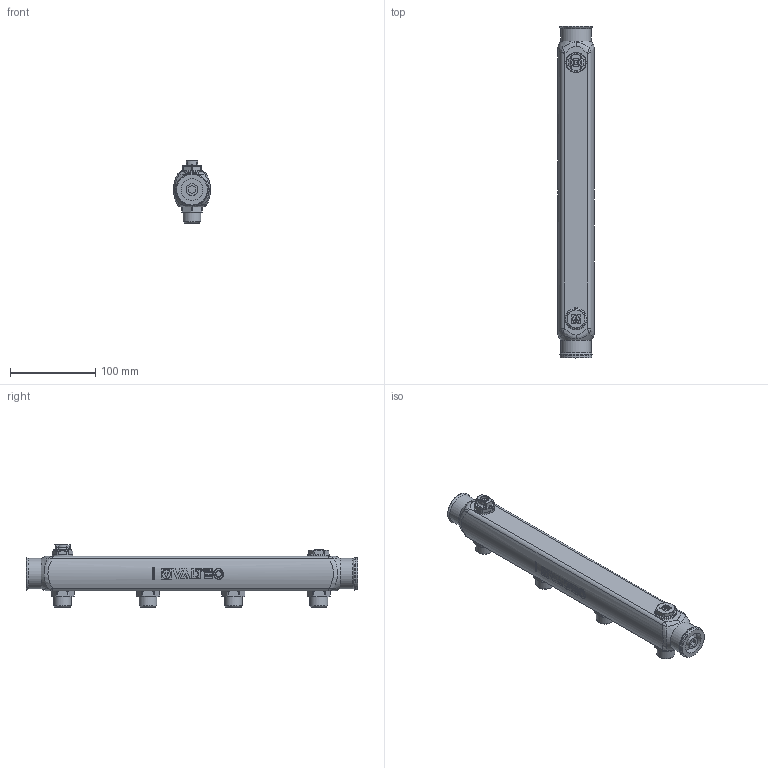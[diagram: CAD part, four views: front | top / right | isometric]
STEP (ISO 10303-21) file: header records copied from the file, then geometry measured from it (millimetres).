
FILE_DESCRIPTION(('STEP AP203'), '1');
FILE_NAME('覆.622621.024.000 捘 - VTc.510.SS.060404', '2024-08-21T11:25:00', ('Boss'), (''), 'C3D Converter', 'C3D Toolkit', '');
FILE_SCHEMA(('CONFIG_CONTROL_DESIGN'));
Length unit declared in the file: millimetre
Products named in the file (1): ВР.622621.024.000 СБ
Bounding box: 43 x 388.5 x 73 mm (x, y, z)
Volume: 127763.4 mm3; surface area: 122844.8 mm2
Topology: 1 solids, 4 shells, 914 faces, 2355 edges, 1519 vertices
Faces by surface type: plane 368, extrusion 230, cylinder 156, cone 99, bspline 52, torus 9
Full cylindrical faces by diameter (mm): 1 x1, 5 x1, 5.3 x1, 10.2 x1, 12 x4, 13 x1, 14 x1, 20.955 x9, 22 x7, 24 x1, 25.5 x1, 26 x1, 28 x1, 30.292 x2, 35.5 x2, 37 x1
Entity records: 55352 total; most frequent: CARTESIAN_POINT 34916, ORIENTED_EDGE 4530, DIRECTION 3396, EDGE_CURVE 2265, VERTEX_POINT 1516, VECTOR 1212, AXIS2_PLACEMENT_3D 1092, EDGE_LOOP 1072
